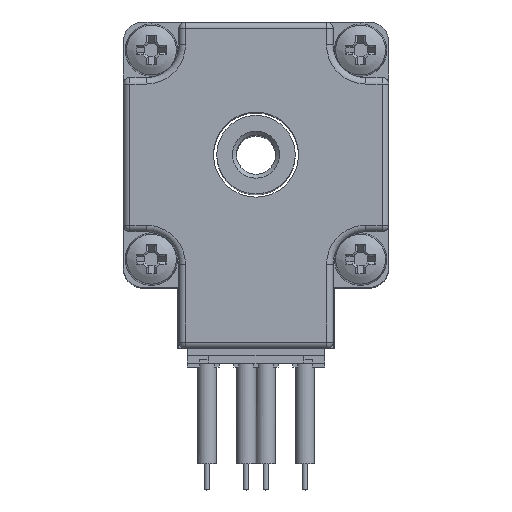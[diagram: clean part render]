
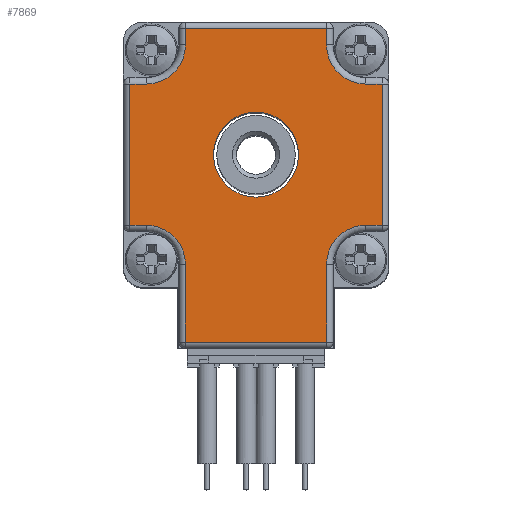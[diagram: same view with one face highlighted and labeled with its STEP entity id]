
A CAD part, top view. The second image highlights one B-rep face of the part: STEP entity #7869.
In plain terms, the highlighted planar face has unit normal (0, 0, 1).
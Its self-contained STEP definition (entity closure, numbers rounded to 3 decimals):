
#196=FACE_BOUND('',#1189,.T.);
#252=PLANE('',#8409);
#741=FACE_OUTER_BOUND('',#1188,.T.);
#1188=EDGE_LOOP('',(#5589,#5590,#5591,#5592,#5593,#5594,#5595,#5596,#5597,
#5598,#5599,#5600,#5601,#5602,#5603,#5604));
#1189=EDGE_LOOP('',(#5605,#5606));
#1646=LINE('',#11724,#2324);
#1648=LINE('',#11733,#2326);
#1654=LINE('',#11762,#2332);
#1660=LINE('',#11794,#2338);
#1662=LINE('',#11803,#2340);
#1668=LINE('',#11832,#2346);
#1670=LINE('',#11838,#2348);
#1672=LINE('',#11847,#2350);
#1674=LINE('',#11850,#2352);
#1676=LINE('',#11856,#2354);
#1678=LINE('',#11865,#2356);
#1680=LINE('',#11868,#2358);
#2324=VECTOR('',#9281,10.);
#2326=VECTOR('',#9293,10.);
#2332=VECTOR('',#9325,10.);
#2338=VECTOR('',#9359,10.);
#2340=VECTOR('',#9371,10.);
#2346=VECTOR('',#9403,10.);
#2348=VECTOR('',#9409,10.);
#2350=VECTOR('',#9421,10.);
#2352=VECTOR('',#9425,10.);
#2354=VECTOR('',#9431,10.);
#2356=VECTOR('',#9443,10.);
#2358=VECTOR('',#9447,10.);
#2989=CIRCLE('',#8315,3.25);
#2990=CIRCLE('',#8316,3.25);
#3003=CIRCLE('',#8335,3.);
#3023=CIRCLE('',#8367,3.);
#3035=CIRCLE('',#8387,3.);
#3039=CIRCLE('',#8395,3.);
#3422=VERTEX_POINT('',#11686);
#3423=VERTEX_POINT('',#11687);
#3426=VERTEX_POINT('',#11695);
#3431=VERTEX_POINT('',#11708);
#3435=VERTEX_POINT('',#11720);
#3437=VERTEX_POINT('',#11726);
#3440=VERTEX_POINT('',#11736);
#3445=VERTEX_POINT('',#11749);
#3450=VERTEX_POINT('',#11765);
#3455=VERTEX_POINT('',#11778);
#3459=VERTEX_POINT('',#11790);
#3461=VERTEX_POINT('',#11796);
#3464=VERTEX_POINT('',#11806);
#3469=VERTEX_POINT('',#11819);
#3473=VERTEX_POINT('',#11834);
#3475=VERTEX_POINT('',#11840);
#3477=VERTEX_POINT('',#11852);
#3479=VERTEX_POINT('',#11858);
#4211=EDGE_CURVE('',#3422,#3423,#2989,.T.);
#4212=EDGE_CURVE('',#3423,#3422,#2990,.T.);
#4229=EDGE_CURVE('',#3426,#3435,#1646,.T.);
#4232=EDGE_CURVE('',#3435,#3437,#3003,.T.);
#4234=EDGE_CURVE('',#3437,#3431,#1648,.T.);
#4248=EDGE_CURVE('',#3431,#3445,#1654,.T.);
#4263=EDGE_CURVE('',#3445,#3459,#1660,.T.);
#4266=EDGE_CURVE('',#3459,#3461,#3023,.T.);
#4268=EDGE_CURVE('',#3461,#3455,#1662,.T.);
#4282=EDGE_CURVE('',#3455,#3469,#1668,.T.);
#4285=EDGE_CURVE('',#3469,#3473,#1670,.T.);
#4288=EDGE_CURVE('',#3473,#3475,#3035,.T.);
#4290=EDGE_CURVE('',#3475,#3464,#1672,.T.);
#4292=EDGE_CURVE('',#3464,#3450,#1674,.T.);
#4295=EDGE_CURVE('',#3450,#3477,#1676,.T.);
#4298=EDGE_CURVE('',#3477,#3479,#3039,.T.);
#4300=EDGE_CURVE('',#3479,#3440,#1678,.T.);
#4302=EDGE_CURVE('',#3440,#3426,#1680,.T.);
#5589=ORIENTED_EDGE('',*,*,#4229,.F.);
#5590=ORIENTED_EDGE('',*,*,#4302,.F.);
#5591=ORIENTED_EDGE('',*,*,#4300,.F.);
#5592=ORIENTED_EDGE('',*,*,#4298,.F.);
#5593=ORIENTED_EDGE('',*,*,#4295,.F.);
#5594=ORIENTED_EDGE('',*,*,#4292,.F.);
#5595=ORIENTED_EDGE('',*,*,#4290,.F.);
#5596=ORIENTED_EDGE('',*,*,#4288,.F.);
#5597=ORIENTED_EDGE('',*,*,#4285,.F.);
#5598=ORIENTED_EDGE('',*,*,#4282,.F.);
#5599=ORIENTED_EDGE('',*,*,#4268,.F.);
#5600=ORIENTED_EDGE('',*,*,#4266,.F.);
#5601=ORIENTED_EDGE('',*,*,#4263,.F.);
#5602=ORIENTED_EDGE('',*,*,#4248,.F.);
#5603=ORIENTED_EDGE('',*,*,#4234,.F.);
#5604=ORIENTED_EDGE('',*,*,#4232,.F.);
#5605=ORIENTED_EDGE('',*,*,#4211,.T.);
#5606=ORIENTED_EDGE('',*,*,#4212,.T.);
#7869=ADVANCED_FACE('',(#741,#196),#252,.T.);
#8315=AXIS2_PLACEMENT_3D('',#11688,#9241,#9242);
#8316=AXIS2_PLACEMENT_3D('',#11689,#9243,#9244);
#8335=AXIS2_PLACEMENT_3D('',#11730,#9288,#9289);
#8367=AXIS2_PLACEMENT_3D('',#11800,#9366,#9367);
#8387=AXIS2_PLACEMENT_3D('',#11844,#9416,#9417);
#8395=AXIS2_PLACEMENT_3D('',#11862,#9438,#9439);
#8409=AXIS2_PLACEMENT_3D('',#11907,#9487,#9488);
#9241=DIRECTION('center_axis',(0.,0.,
-1.));
#9242=DIRECTION('ref_axis',(1.,0.,0.));
#9243=DIRECTION('center_axis',(0.,0.,
-1.));
#9244=DIRECTION('ref_axis',(1.,0.,0.));
#9281=DIRECTION('',(0.,-1.,0.));
#9288=DIRECTION('center_axis',(0.,0.,
1.));
#9289=DIRECTION('ref_axis',(-0.707,-0.707,0.));
#9293=DIRECTION('',(1.,0.,0.));
#9325=DIRECTION('',(0.,-1.,0.));
#9359=DIRECTION('',(-1.,0.,0.));
#9366=DIRECTION('center_axis',(0.,0.,
1.));
#9367=DIRECTION('ref_axis',(-0.707,0.707,0.));
#9371=DIRECTION('',(0.,-1.,0.));
#9403=DIRECTION('',(-1.,0.,0.));
#9409=DIRECTION('',(0.,1.,0.));
#9416=DIRECTION('center_axis',(0.,0.,
1.));
#9417=DIRECTION('ref_axis',(0.707,0.707,0.));
#9421=DIRECTION('',(-1.,0.,0.));
#9425=DIRECTION('',(0.,1.,0.));
#9431=DIRECTION('',(1.,0.,0.));
#9438=DIRECTION('center_axis',(0.,0.,
1.));
#9439=DIRECTION('ref_axis',(0.707,-0.707,0.));
#9443=DIRECTION('',(0.,1.,0.));
#9447=DIRECTION('',(1.,0.,0.));
#9487=DIRECTION('center_axis',(0.,0.,
1.));
#9488=DIRECTION('ref_axis',(1.,0.,0.));
#11686=CARTESIAN_POINT('',(3.25,0.,20.9));
#11687=CARTESIAN_POINT('',(-3.25,0.,20.9));
#11688=CARTESIAN_POINT('Origin',(0.,0.,20.9));
#11689=CARTESIAN_POINT('Origin',(0.,0.,20.9));
#11695=CARTESIAN_POINT('',(5.4,9.65,20.9));
#11708=CARTESIAN_POINT('',(9.65,5.4,20.9));
#11720=CARTESIAN_POINT('',(5.4,8.4,20.9));
#11724=CARTESIAN_POINT('',(5.4,4.073,20.9));
#11726=CARTESIAN_POINT('',(8.4,5.4,20.9));
#11730=CARTESIAN_POINT('Origin',(8.4,8.4,20.9));
#11733=CARTESIAN_POINT('',(4.2,5.4,20.9));
#11736=CARTESIAN_POINT('',(-5.4,9.65,20.9));
#11749=CARTESIAN_POINT('',(9.65,-5.4,20.9));
#11762=CARTESIAN_POINT('',(9.65,4.073,20.9));
#11765=CARTESIAN_POINT('',(-9.65,5.4,20.9));
#11778=CARTESIAN_POINT('',(5.4,-14.35,20.9));
#11790=CARTESIAN_POINT('',(8.4,-5.4,20.9));
#11794=CARTESIAN_POINT('',(5.075,-5.4,20.9));
#11796=CARTESIAN_POINT('',(5.4,-8.4,20.9));
#11800=CARTESIAN_POINT('Origin',(8.4,-8.4,20.9));
#11803=CARTESIAN_POINT('',(5.4,-5.202,20.9));
#11806=CARTESIAN_POINT('',(-9.65,-5.4,20.9));
#11819=CARTESIAN_POINT('',(-5.4,-14.35,20.9));
#11832=CARTESIAN_POINT('',(2.95,-14.35,20.9));
#11834=CARTESIAN_POINT('',(-5.4,-8.4,20.9));
#11838=CARTESIAN_POINT('',(-5.4,-8.427,20.9));
#11840=CARTESIAN_POINT('',(-8.4,-5.4,20.9));
#11844=CARTESIAN_POINT('Origin',(-8.4,-8.4,20.9));
#11847=CARTESIAN_POINT('',(-4.2,-5.4,20.9));
#11850=CARTESIAN_POINT('',(-9.65,-1.002,20.9));
#11852=CARTESIAN_POINT('',(-8.4,5.4,20.9));
#11856=CARTESIAN_POINT('',(-5.075,5.4,20.9));
#11858=CARTESIAN_POINT('',(-5.4,8.4,20.9));
#11862=CARTESIAN_POINT('Origin',(-8.4,8.4,20.9));
#11865=CARTESIAN_POINT('',(-5.4,3.198,20.9));
#11868=CARTESIAN_POINT('',(-5.075,9.65,20.9));
#11907=CARTESIAN_POINT('Origin',(0.,-2.004,
20.9));
